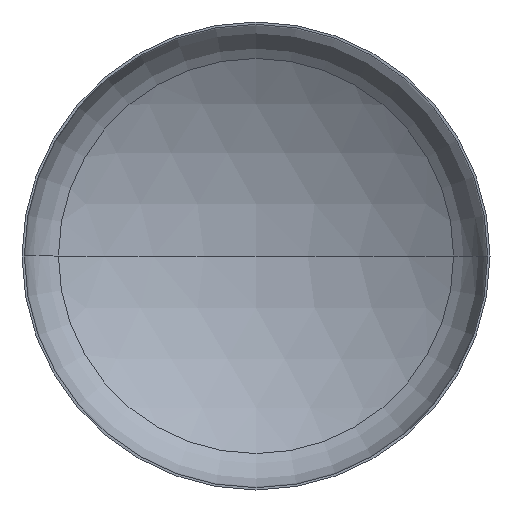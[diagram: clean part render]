
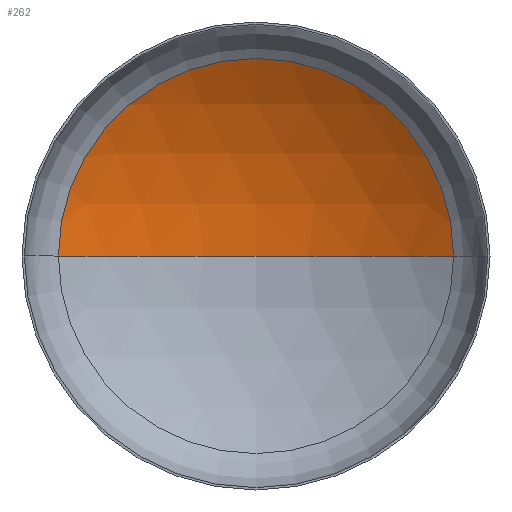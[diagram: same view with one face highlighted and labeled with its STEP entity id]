
A CAD part, front view. The second image highlights one B-rep face of the part: STEP entity #262.
In plain terms, the highlighted spherical face has radius 960 mm.
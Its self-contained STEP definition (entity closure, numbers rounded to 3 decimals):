
#5 = EDGE_LOOP ( 'NONE', ( #351, #168, #135 ) ) ;
#8 = AXIS2_PLACEMENT_3D ( 'NONE', #323, #169, #352 ) ;
#11 = AXIS2_PLACEMENT_3D ( 'NONE', #301, #153, #345 ) ;
#12 = AXIS2_PLACEMENT_3D ( 'NONE', #84, #94, #55 ) ;
#43 = VERTEX_POINT ( 'NONE', #219 ) ;
#45 = AXIS2_PLACEMENT_3D ( 'NONE', #187, #175, #294 ) ;
#55 = DIRECTION ( 'NONE',  ( 1., 0., 0. ) ) ;
#84 = CARTESIAN_POINT ( 'NONE',  ( 0., -638.289, 0. ) ) ;
#94 = DIRECTION ( 'NONE',  ( 0., 0., 1. ) ) ;
#111 = CIRCLE ( 'NONE', #12, 960. ) ;
#114 = VERTEX_POINT ( 'NONE', #288 ) ;
#125 = VERTEX_POINT ( 'NONE', #376 ) ;
#135 = ORIENTED_EDGE ( 'NONE', *, *, #367, .T. ) ;
#153 = DIRECTION ( 'NONE',  ( 0., 0., -1. ) ) ;
#168 = ORIENTED_EDGE ( 'NONE', *, *, #353, .T. ) ;
#169 = DIRECTION ( 'NONE',  ( 0., -1., 0. ) ) ;
#175 = DIRECTION ( 'NONE',  ( 0., 0., -1. ) ) ;
#187 = CARTESIAN_POINT ( 'NONE',  ( 0., -638.289, 0. ) ) ;
#212 = CIRCLE ( 'NONE', #8, 506.632 ) ;
#219 = CARTESIAN_POINT ( 'NONE',  ( -506.632, 177.14, 0. ) ) ;
#245 = SPHERICAL_SURFACE ( 'NONE', #45, 960. ) ;
#262 = ADVANCED_FACE ( 'NONE', ( #365 ), #245, .F. ) ;
#288 = CARTESIAN_POINT ( 'NONE',  ( 0., 321.711, 0. ) ) ;
#294 = DIRECTION ( 'NONE',  ( -1., 0., 0. ) ) ;
#301 = CARTESIAN_POINT ( 'NONE',  ( 0., -638.289, 0. ) ) ;
#323 = CARTESIAN_POINT ( 'NONE',  ( 0., 177.14, 0. ) ) ;
#345 = DIRECTION ( 'NONE',  ( -1., 0., 0. ) ) ;
#351 = ORIENTED_EDGE ( 'NONE', *, *, #355, .F. ) ;
#352 = DIRECTION ( 'NONE',  ( 1., 0., 0. ) ) ;
#353 = EDGE_CURVE ( 'NONE', #114, #125, #394, .T. ) ;
#355 = EDGE_CURVE ( 'NONE', #114, #43, #111, .T. ) ;
#365 = FACE_OUTER_BOUND ( 'NONE', #5, .T. ) ;
#367 = EDGE_CURVE ( 'NONE', #125, #43, #212, .T. ) ;
#376 = CARTESIAN_POINT ( 'NONE',  ( 506.632, 177.14, 0. ) ) ;
#394 = CIRCLE ( 'NONE', #11, 960. ) ;
